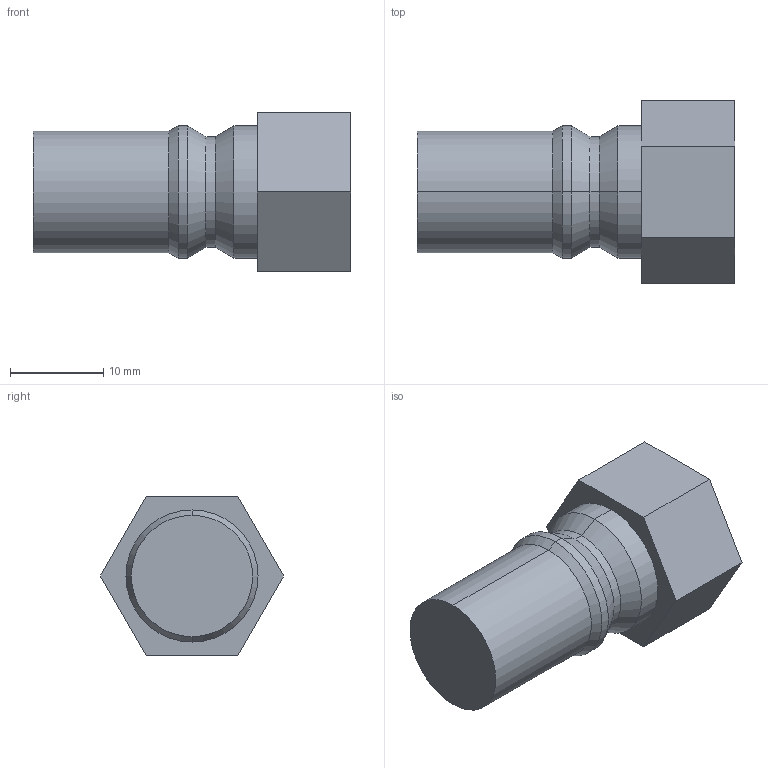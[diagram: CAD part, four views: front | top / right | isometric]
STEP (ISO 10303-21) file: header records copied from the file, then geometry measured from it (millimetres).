
FILE_DESCRIPTION (( 'STEP AP214' ), '1' );
FILE_NAME ('BR601.06 DR 13.STEP', '2020-12-02T13:24:50', ( '' ), ( '' ), 'SwSTEP 2.0', 'SolidWorks 2018', '' );
FILE_SCHEMA (( 'AUTOMOTIVE_DESIGN' ));
Length unit declared in the file: millimetre
Products named in the file (1): BR601.06 DR 13
Bounding box: 34 x 19.63 x 17 mm (x, y, z)
Volume: 5765.6 mm3; surface area: 2087.8 mm2
Topology: 1 solids, 1 shells, 23 faces, 48 edges, 28 vertices
Faces by surface type: plane 9, cylinder 8, cone 6
Entity records: 636 total; most frequent: DIRECTION 112, CARTESIAN_POINT 100, ORIENTED_EDGE 96, EDGE_CURVE 48, AXIS2_PLACEMENT_3D 40, LINE 32, VECTOR 32, VERTEX_POINT 28
